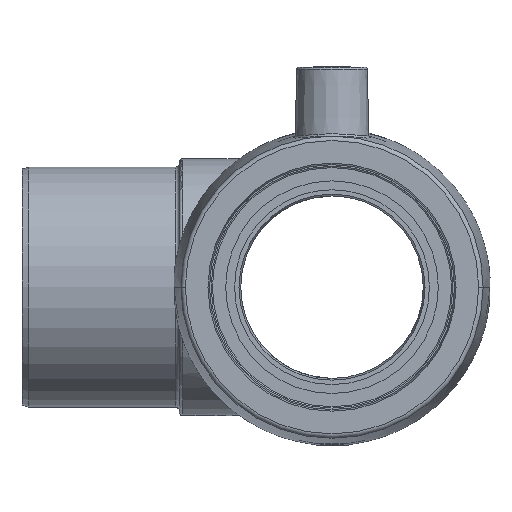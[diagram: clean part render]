
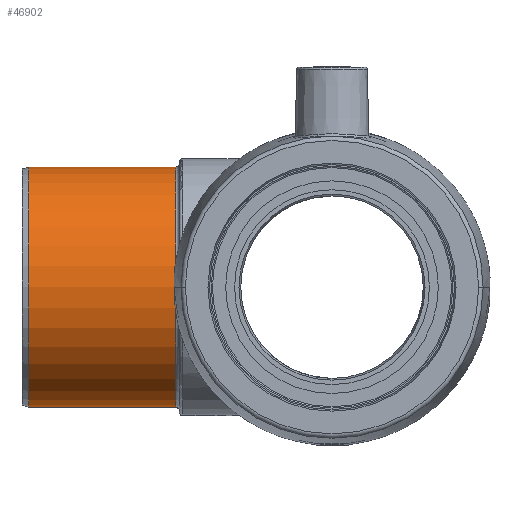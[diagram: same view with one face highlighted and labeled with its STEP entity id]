
A CAD part, left-side view. The second image highlights one B-rep face of the part: STEP entity #46902.
In plain terms, the highlighted cylindrical face has radius 27.1 mm (diameter 54.2 mm), a partial arc.
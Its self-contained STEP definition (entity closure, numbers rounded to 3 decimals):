
#26 = DIRECTION ( 'NONE',  ( 0., 0., 1. ) ) ;
#1710 = EDGE_CURVE ( 'NONE', #28093, #12151, #23850, .T. ) ;
#1981 = VECTOR ( 'NONE', #28932, 1000. ) ;
#2182 = CYLINDRICAL_SURFACE ( 'NONE', #23815, 27.1 ) ;
#5423 = ORIENTED_EDGE ( 'NONE', *, *, #57121, .F. ) ;
#8955 = DIRECTION ( 'NONE',  ( 0., -1., 0. ) ) ;
#10893 = CARTESIAN_POINT ( 'NONE',  ( 0., 70., 0. ) ) ;
#12151 = VERTEX_POINT ( 'NONE', #52619 ) ;
#14430 = ORIENTED_EDGE ( 'NONE', *, *, #43365, .T. ) ;
#14894 = ORIENTED_EDGE ( 'NONE', *, *, #21113, .T. ) ;
#18367 = DIRECTION ( 'NONE',  ( 0., 1., 0. ) ) ;
#19212 = AXIS2_PLACEMENT_3D ( 'NONE', #19591, #18367, #26 ) ;
#19591 = CARTESIAN_POINT ( 'NONE',  ( 0., 35.3, 0. ) ) ;
#21105 = DIRECTION ( 'NONE',  ( 0., -1., 0. ) ) ;
#21113 = EDGE_CURVE ( 'NONE', #12151, #39040, #39016, .T. ) ;
#22867 = CARTESIAN_POINT ( 'NONE',  ( 0., 68.5, -27.1 ) ) ;
#23815 = AXIS2_PLACEMENT_3D ( 'NONE', #10893, #21105, #54037 ) ;
#23850 = LINE ( 'NONE', #51502, #38716 ) ;
#24529 = LINE ( 'NONE', #61499, #1981 ) ;
#24908 = EDGE_LOOP ( 'NONE', ( #5423, #14430, #38634, #14894 ) ) ;
#25185 = FACE_OUTER_BOUND ( 'NONE', #24908, .T. ) ;
#25623 = AXIS2_PLACEMENT_3D ( 'NONE', #26992, #45865, #60207 ) ;
#26992 = CARTESIAN_POINT ( 'NONE',  ( 0., 68.5, 0. ) ) ;
#28093 = VERTEX_POINT ( 'NONE', #22867 ) ;
#28932 = DIRECTION ( 'NONE',  ( 0., -1., 0. ) ) ;
#30975 = CARTESIAN_POINT ( 'NONE',  ( 0., 68.5, 27.1 ) ) ;
#36554 = CIRCLE ( 'NONE', #25623, 27.1 ) ;
#38413 = VERTEX_POINT ( 'NONE', #30975 ) ;
#38634 = ORIENTED_EDGE ( 'NONE', *, *, #1710, .T. ) ;
#38716 = VECTOR ( 'NONE', #8955, 1000. ) ;
#39016 = CIRCLE ( 'NONE', #19212, 27.1 ) ;
#39040 = VERTEX_POINT ( 'NONE', #45605 ) ;
#43365 = EDGE_CURVE ( 'NONE', #38413, #28093, #36554, .T. ) ;
#45605 = CARTESIAN_POINT ( 'NONE',  ( 0., 35.3, 27.1 ) ) ;
#45865 = DIRECTION ( 'NONE',  ( 0., -1., 0. ) ) ;
#46902 = ADVANCED_FACE ( 'NONE', ( #25185 ), #2182, .T. ) ;
#51502 = CARTESIAN_POINT ( 'NONE',  ( 0., 70., -27.1 ) ) ;
#52619 = CARTESIAN_POINT ( 'NONE',  ( 0., 35.3, -27.1 ) ) ;
#54037 = DIRECTION ( 'NONE',  ( 0., 0., -1. ) ) ;
#57121 = EDGE_CURVE ( 'NONE', #38413, #39040, #24529, .T. ) ;
#60207 = DIRECTION ( 'NONE',  ( 0., 0., 1. ) ) ;
#61499 = CARTESIAN_POINT ( 'NONE',  ( 0., 70., 27.1 ) ) ;
